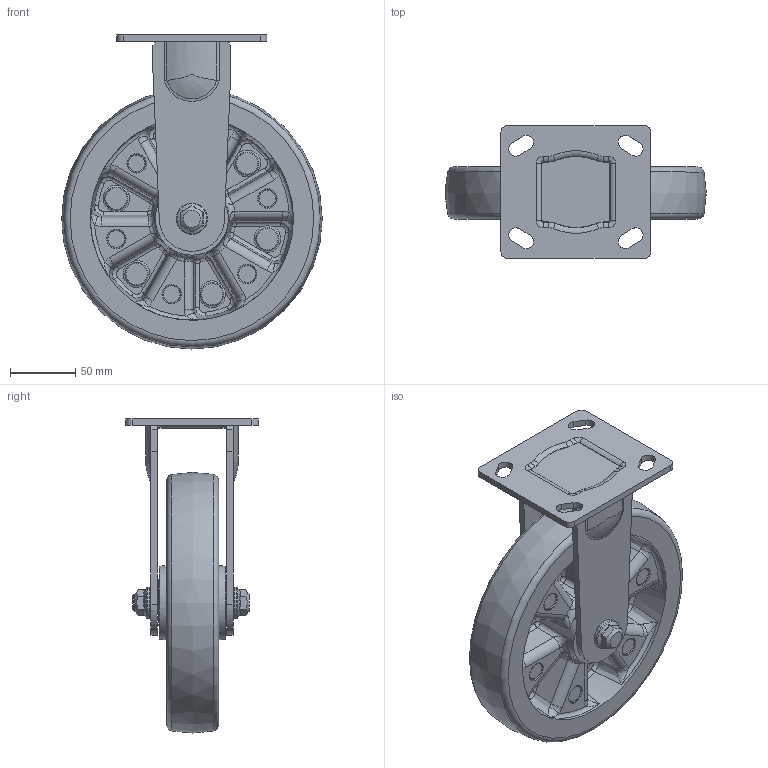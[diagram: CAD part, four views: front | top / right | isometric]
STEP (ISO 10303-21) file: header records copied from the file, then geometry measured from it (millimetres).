
FILE_DESCRIPTION((''),'2;1');
FILE_NAME('C:\Documents and Settings\Administrator\바탕 화면\3D STEP\GH-SERIES\GH-200\GH-200A-RF.stp','2010-12-27T14:26:34',('Administrator'),(''),'Autodesk Inventor 2009','Autodesk Inventor 2009','');
FILE_SCHEMA(('AUTOMOTIVE_DESIGN { 1 0 10303 214 1 1 1 1 }'));
Length unit declared in the file: millimetre
Products named in the file (1): GH-200A-RF
Bounding box: 199.82 x 102 x 241 mm (x, y, z)
Surface area: 196520.2 mm2
Topology: 2 solids, 4 shells, 651 faces, 1643 edges, 984 vertices
Faces by surface type: bspline 294, plane 154, cylinder 110, cone 47, torus 46
Full cylindrical faces by diameter (mm): 12 x2, 15 x2, 15.2 x2, 21.5 x1, 24 x2, 30 x1, 30.5 x2, 35 x4
Entity records: 36976 total; most frequent: CARTESIAN_POINT 23822, ORIENTED_EDGE 2848, DIRECTION 2376, EDGE_CURVE 1424, AXIS2_PLACEMENT_3D 1026, VERTEX_POINT 908, EDGE_LOOP 802, FACE_OUTER_BOUND 649
